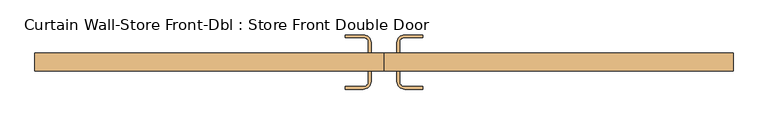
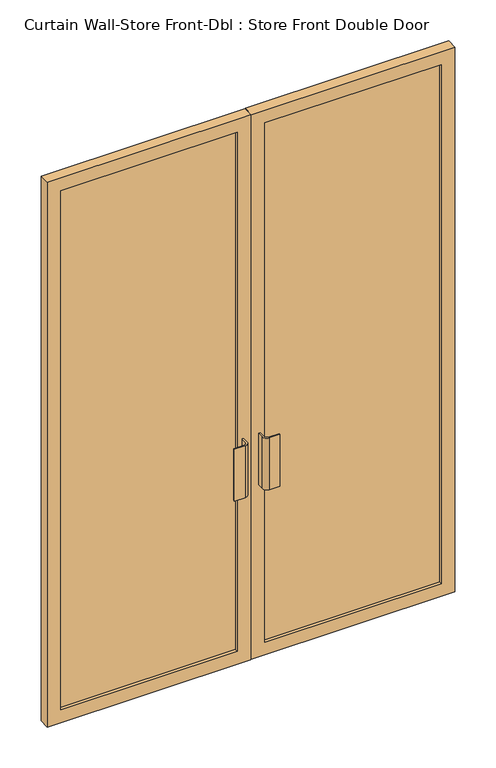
"""IFC4 building model written with IfcOpenShell, lengths in millimetres: door geometry, Curtain Wall-Store Front-Dbl : Store Front Double Door."""

from ifc_helpers import new_model, si_unit, point, frame, frame_2d, origin, place, context, project, spatial, polyline, circle_curve, trimmed, segment, composite_curve, outline, extrude, source, transform, mapped, element, save


def curtain_wall_store_front_dbl_store_front_double_door_801bb5a2(model_context):
    return source(origin(), model_context, "Body", "SweptSolid", [
        extrude(outline(composite_curve([segment(trimmed(circle_curve(frame_2d((-50.8, -12.7)), 19.05), [point((-31.75, -12.7))], [point((-50.8, -31.75))], False, "CARTESIAN"), True, "CONTINUOUS"), segment(polyline([(-50.8, -31.75), (-95.25, -31.75), (-95.25, -25.4), (-50.8, -25.4)]), True, "CONTINUOUS"), segment(trimmed(circle_curve(frame_2d((-50.8, -12.7)), 12.7), [point((-50.8, -25.4))], [point((-38.1, -12.7))], True, "CARTESIAN"), True, "CONTINUOUS"), segment(polyline([(-38.1, -12.7), (-38.1, 12.7), (-31.75, 12.7), (-31.75, -12.7)]), True, "CONTINUOUS")], self_intersect=False)), frame((0.0, 0.0, 762.0), z_axis=(0.0, 0.0, 1.0), x_axis=(1.0, 0.0, 0.0)), (0.0, 0.0, 1.0), 228.6),
        extrude(outline(composite_curve([segment(polyline([(31.75, -12.7), (31.75, 12.7), (38.1, 12.7), (38.1, -12.7)]), True, "CONTINUOUS"), segment(trimmed(circle_curve(frame_2d((50.8, -12.7)), 12.7), [point((38.1, -12.7))], [point((50.8, -25.4))], True, "CARTESIAN"), True, "CONTINUOUS"), segment(polyline([(50.8, -25.4), (95.25, -25.4), (95.25, -31.75), (50.8, -31.75)]), True, "CONTINUOUS"), segment(trimmed(circle_curve(frame_2d((50.8, -12.7)), 19.05), [point((50.8, -31.75))], [point((31.75, -12.7))], False, "CARTESIAN"), True, "CONTINUOUS")], self_intersect=False)), frame((0.0, 0.0, 762.0), z_axis=(0.0, 0.0, 1.0), x_axis=(1.0, 0.0, 0.0)), (0.0, 0.0, 1.0), 228.6),
        extrude(outline(composite_curve([segment(polyline([(-31.75, 82.55), (-31.75, 57.15), (-38.1, 57.15), (-38.1, 82.55)]), True, "CONTINUOUS"), segment(trimmed(circle_curve(frame_2d((-50.8, 82.55)), 12.7), [point((-38.1, 82.55))], [point((-50.8, 95.25))], True, "CARTESIAN"), True, "CONTINUOUS"), segment(polyline([(-50.8, 95.25), (-95.25, 95.25), (-95.25, 101.6), (-50.8, 101.6)]), True, "CONTINUOUS"), segment(trimmed(circle_curve(frame_2d((-50.8, 82.55)), 19.05), [point((-50.8, 101.6))], [point((-31.75, 82.55))], False, "CARTESIAN"), True, "CONTINUOUS")], self_intersect=False)), frame((0.0, 0.0, 762.0), z_axis=(0.0, 0.0, 1.0), x_axis=(1.0, 0.0, 0.0)), (0.0, 0.0, 1.0), 228.6),
        extrude(outline(composite_curve([segment(trimmed(circle_curve(frame_2d((50.8, 82.55)), 19.05), [point((31.75, 82.55))], [point((50.8, 101.6))], False, "CARTESIAN"), True, "CONTINUOUS"), segment(polyline([(50.8, 101.6), (95.25, 101.6), (95.25, 95.25), (50.8, 95.25)]), True, "CONTINUOUS"), segment(trimmed(circle_curve(frame_2d((50.8, 82.55)), 12.7), [point((50.8, 95.25))], [point((38.1, 82.55))], True, "CARTESIAN"), True, "CONTINUOUS"), segment(polyline([(38.1, 82.55), (38.1, 57.15), (31.75, 57.15), (31.75, 82.55)]), True, "CONTINUOUS")], self_intersect=False)), frame((0.0, 0.0, 762.0), z_axis=(0.0, 0.0, 1.0), x_axis=(1.0, 0.0, 0.0)), (0.0, 0.0, 1.0), 228.6),
        extrude(outline(polyline([(797.0075, 25.4), (57.94375, 25.4), (57.94375, 44.45), (797.0075, 44.45), (797.0075, 25.4)])), frame((0.0, 0.0, 57.15), z_axis=(0.0, 0.0, 1.0), x_axis=(1.0, 0.0, 0.0)), (0.0, 0.0, 1.0), 2299.1),
        extrude(outline(polyline([(-57.94375, 25.4), (-797.0075, 25.4), (-797.0075, 44.45), (-57.94375, 44.45), (-57.94375, 25.4)])), frame((0.0, 0.0, 57.15), z_axis=(0.0, 0.0, 1.0), x_axis=(1.0, 0.0, 0.0)), (0.0, 0.0, 1.0), 2299.1),
        extrude(outline(polyline([(2413.4, 0.79375), (0.0, 0.79375), (0.0, 854.1575), (2413.4, 854.1575), (2413.4, 0.79375)]), holes=[polyline([(2356.25, 57.94375), (2356.25, 797.0075), (57.15, 797.0075), (57.15, 57.94375), (2356.25, 57.94375)])]), frame((0.0, 12.7, 0.0), z_axis=(0.0, 1.0, 0.0), x_axis=(0.0, 0.0, 1.0)), (0.0, 0.0, 1.0), 44.45),
        extrude(outline(polyline([(2413.4, -0.79375), (2413.4, -854.1575), (0.0, -854.1575), (0.0, -0.79375), (2413.4, -0.79375)]), holes=[polyline([(2356.25, -797.0075), (2356.25, -57.94375), (57.15, -57.94375), (57.15, -797.0075), (2356.25, -797.0075)])]), frame((0.0, 12.7, 0.0), z_axis=(0.0, 1.0, 0.0), x_axis=(0.0, 0.0, 1.0)), (0.0, 0.0, 1.0), 44.45),
    ])


if __name__ == "__main__":
    model = new_model("IFC4")
    model_context = context("Model", 3, world=origin())
    ifc_project = project(units=[si_unit("LENGTHUNIT", "METRE", prefix="MILLI")], contexts=[model_context])
    site = spatial("IfcSite", under=ifc_project)
    building = spatial("IfcBuilding", under=site)
    placement = place(None, origin())
    curtain_wall_store_front_dbl_store_front_double_door_shape = curtain_wall_store_front_dbl_store_front_double_door_801bb5a2(model_context)
    element("IfcDoor", 1, ObjectType="Curtain Wall-Store Front-Dbl : Store Front Double Door", at=placement, inside=building, context=model_context, shape_type="MappedRepresentation", body=[
        mapped(curtain_wall_store_front_dbl_store_front_double_door_shape, transform((0.0, 0.0, 0.0), x_axis=(1.0, 0.0, 0.0), y_axis=(0.0, 1.0, 0.0), z_axis=(0.0, 0.0, 1.0))),
    ])
    save(model, "model.ifc")
